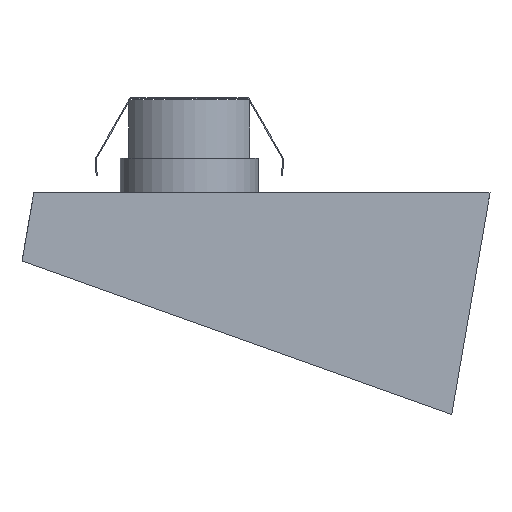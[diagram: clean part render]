
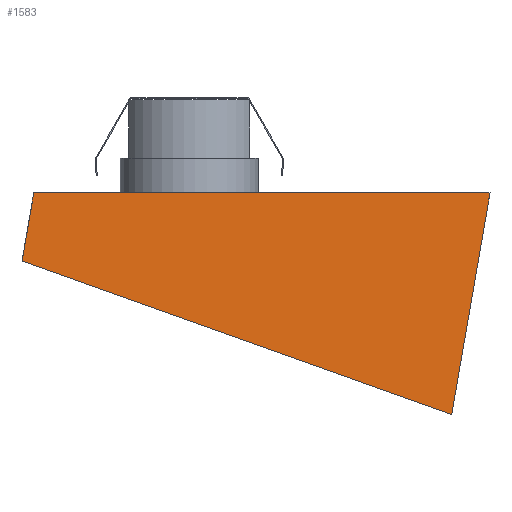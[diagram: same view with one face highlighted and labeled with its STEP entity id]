
A CAD part, left-side view. The second image highlights one B-rep face of the part: STEP entity #1583.
In plain terms, the highlighted planar face has unit normal (-0.985, -0.168, -0.029) as drawn and (-0.171, 0, 0.985) by its records, which use the part's own axes.
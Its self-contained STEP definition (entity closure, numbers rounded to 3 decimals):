
#148=FACE_OUTER_BOUND('',#234,.T.);
#234=EDGE_LOOP('',(#1274,#1275,#1276,#1277));
#287=LINE('',#2320,#481);
#311=LINE('',#2370,#505);
#378=LINE('',#2516,#572);
#382=LINE('',#2524,#576);
#481=VECTOR('',#1886,10.);
#505=VECTOR('',#1924,10.);
#572=VECTOR('',#2065,10.);
#576=VECTOR('',#2075,10.);
#682=VERTEX_POINT('',#2318);
#683=VERTEX_POINT('',#2319);
#702=VERTEX_POINT('',#2369);
#744=VERTEX_POINT('',#2515);
#832=EDGE_CURVE('',#682,#683,#287,.T.);
#856=EDGE_CURVE('',#702,#683,#311,.T.);
#931=EDGE_CURVE('',#744,#682,#378,.T.);
#935=EDGE_CURVE('',#702,#744,#382,.T.);
#1274=ORIENTED_EDGE('',*,*,#931,.T.);
#1275=ORIENTED_EDGE('',*,*,#832,.T.);
#1276=ORIENTED_EDGE('',*,*,#856,.F.);
#1277=ORIENTED_EDGE('',*,*,#935,.T.);
#1502=PLANE('',#1774);
#1583=ADVANCED_FACE('',(#148),#1502,.F.);
#1774=AXIS2_PLACEMENT_3D('',#2523,#2073,#2074);
#1886=DIRECTION('',(-0.971,0.168,-0.168));
#1924=DIRECTION('',(0.,1.,0.));
#2065=DIRECTION('',(0.,1.,0.));
#2073=DIRECTION('center_axis',(0.171,0.,-0.985));
#2074=DIRECTION('ref_axis',(-0.985,0.,-0.171));
#2075=DIRECTION('',(0.971,0.168,0.168));
#2318=CARTESIAN_POINT('',(65.,10.,32.5));
#2319=CARTESIAN_POINT('',(-65.,32.5,10.));
#2320=CARTESIAN_POINT('',(0.,21.25,21.25));
#2369=CARTESIAN_POINT('',(-65.,-32.5,10.));
#2370=CARTESIAN_POINT('',(-65.,0.,10.));
#2515=CARTESIAN_POINT('',(65.,-10.,32.5));
#2516=CARTESIAN_POINT('',(65.,32.5,32.5));
#2523=CARTESIAN_POINT('Origin',(65.,0.,32.5));
#2524=CARTESIAN_POINT('',(63.163,-10.318,32.182));
